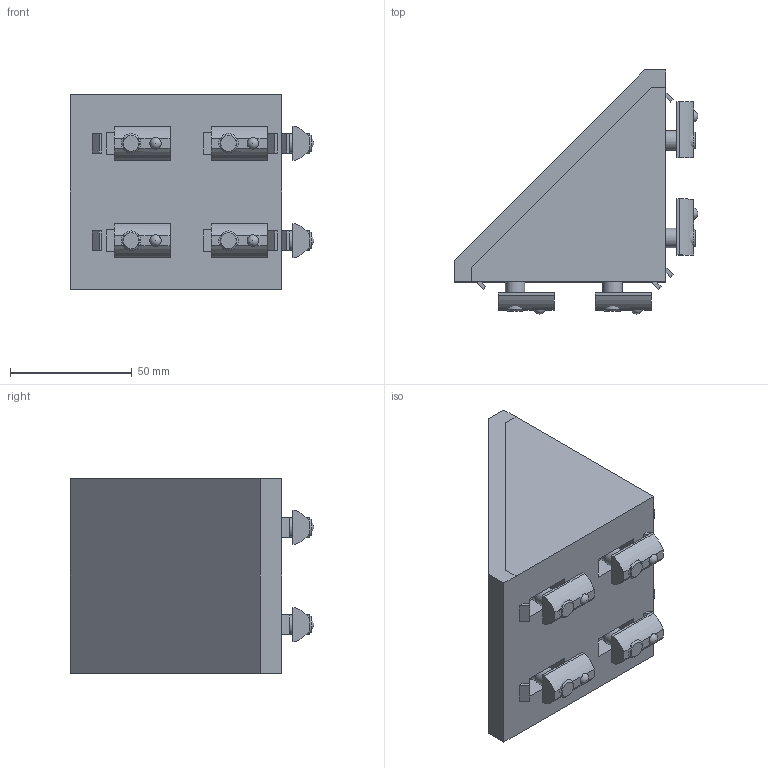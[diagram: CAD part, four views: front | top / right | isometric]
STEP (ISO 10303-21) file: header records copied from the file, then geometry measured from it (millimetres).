
FILE_DESCRIPTION(/* description */ ('STEP AP214'),/* implementation_level */ '2;1');
FILE_NAME(/* name */ 'Angle Bracket_ Zinc Die Casting GN 30i-80808-C-ZWSZS',/* time_stamp */ '2024-08-27T08:25:17+02:00',/* author */ ('License CC BY-ND 4.0'),/* organization */ ('CADENAS'),/* preprocessor_version */ 'ST-DEVELOPER v19.3',/* originating_system */ 'PARTsolutions',/* authorisation */ ' ');
FILE_SCHEMA (('AUTOMOTIVE_DESIGN {1 0 10303 214 3 1 1}'));
Length unit declared in the file: millimetre
Products named in the file (4): Angle Bracket, Zinc Die Casting GN 30i-80808-C-ZWSZS; Angle Bracket, Zinc Die Casting GN 30i-80808-C-ZWSZS-1; Angle Bracket, Zinc Die Casting GN 30i-80808-C-ZWSZS-2; Angle Bracket, Zinc Die Casting GN 30i-80808-C-ZWSZS-3
Assembly tree (17 placements, depth 2):
  Angle Bracket, Zinc Die Casting GN 30i-80808-C-ZWSZS
    Angle Bracket, Zinc Die Casting GN 30i-80808-C-ZWSZS-1
    Angle Bracket, Zinc Die Casting GN 30i-80808-C-ZWSZS-2  x8
    Angle Bracket, Zinc Die Casting GN 30i-80808-C-ZWSZS-3  x8
Bounding box: 100.1 x 100.1 x 80 mm (x, y, z)
Volume: 207027.1 mm3; surface area: 71871.5 mm2
Topology: 17 solids, 17 shells, 316 faces, 784 edges, 512 vertices
Faces by surface type: plane 236, cylinder 48, sphere 16, cone 16
Full cylindrical faces by diameter (mm): 6.647 x8, 7.2 x8, 8 x8, 14 x8
Entity records: 4405 total; most frequent: CARTESIAN_POINT 656, ORIENTED_EDGE 594, DIRECTION 586, EDGE_CURVE 297, LINE 276, VECTOR 276, VERTEX_POINT 201, AXIS2_PLACEMENT_3D 155
